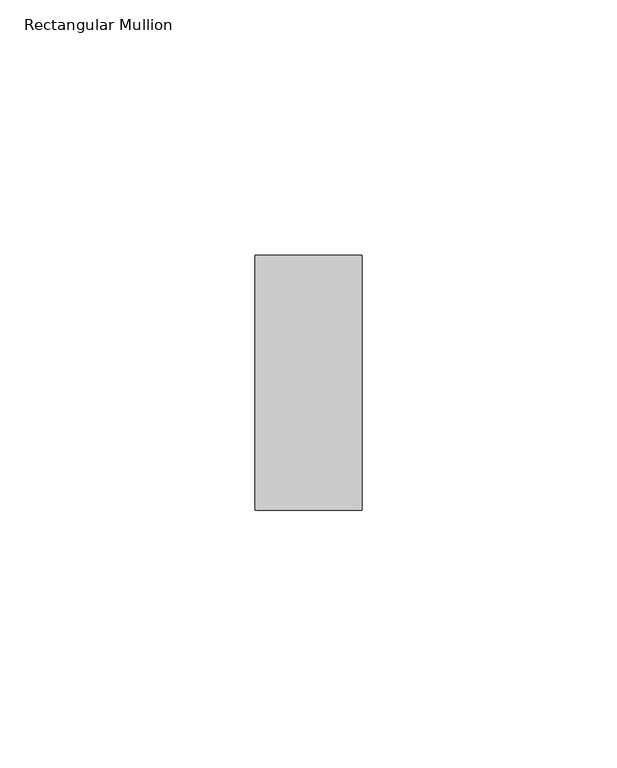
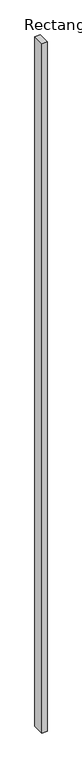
"""IFC4 building model written with IfcOpenShell, lengths in millimetres: member geometry, Rectangular Mullion : RSen_21_CWM_support profile - 21x50 Multi_gen_duco projects."""

from ifc_helpers import new_model, si_unit, frame, origin, place, context, project, spatial, polyline, outline, extrude, source, transform, mapped, element, save


def rectangular_mullion_66519e13(model_context):
    return source(origin(), model_context, "Body", "SweptSolid", [
        extrude(outline(polyline([(10.5, 1.0), (10.5, -49.0), (-10.5, -49.0), (-10.5, 1.0), (10.5, 1.0)])), frame((0.0, 0.0, -3000.0), z_axis=(0.0, 0.0, 1.0), x_axis=(1.0, 0.0, 0.0)), (0.0, 0.0, 1.0), 3000.0),
    ])


if __name__ == "__main__":
    model = new_model("IFC4")
    model_context = context("Model", 3, world=origin())
    ifc_project = project(units=[si_unit("LENGTHUNIT", "METRE", prefix="MILLI")], contexts=[model_context])
    site = spatial("IfcSite", under=ifc_project)
    building = spatial("IfcBuilding", under=site)
    placement = place(None, origin())
    rectangular_mullion_shape = rectangular_mullion_66519e13(model_context)
    element("IfcMember", 1, ObjectType="Rectangular Mullion : RSen_21_CWM_support profile - 21x50 Multi_gen_duco projects", at=placement, inside=building, context=model_context, shape_type="MappedRepresentation", body=[
        mapped(rectangular_mullion_shape, transform((0.0, 0.0, 0.0), x_axis=(1.0, 0.0, 0.0), y_axis=(0.0, 1.0, 0.0), z_axis=(0.0, 0.0, 1.0))),
    ])
    save(model, "model.ifc")
